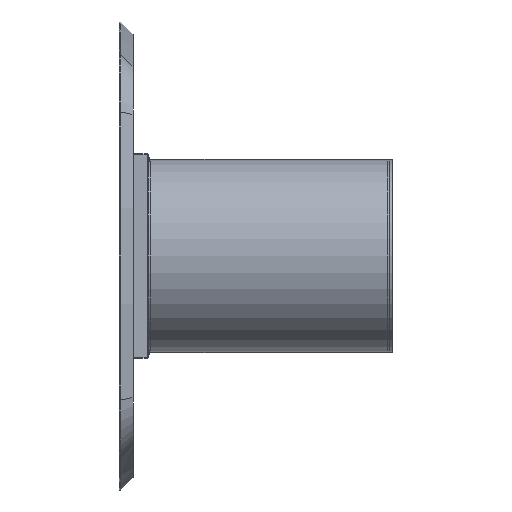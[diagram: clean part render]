
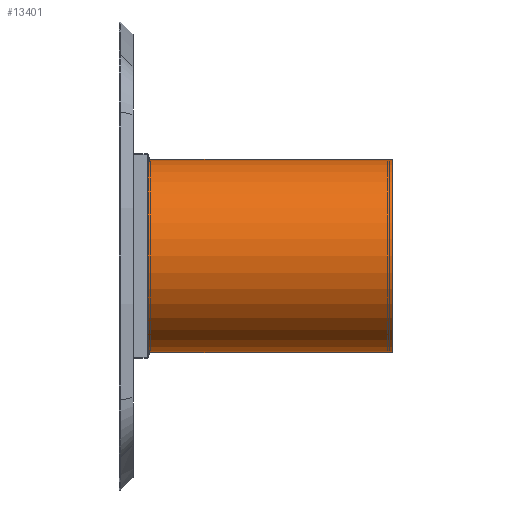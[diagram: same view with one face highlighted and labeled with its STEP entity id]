
A CAD part, left-side view. The second image highlights one B-rep face of the part: STEP entity #13401.
In plain terms, the highlighted cylindrical face has radius 265 mm (diameter 530 mm), a partial arc.
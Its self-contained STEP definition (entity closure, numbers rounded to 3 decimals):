
#482 = ORIENTED_EDGE ( 'NONE', *, *, #15622, .T. ) ;
#661 = FACE_OUTER_BOUND ( 'NONE', #7739, .T. ) ;
#765 = DIRECTION ( 'NONE',  ( 0., 0., 1. ) ) ;
#1100 = ORIENTED_EDGE ( 'NONE', *, *, #4484, .F. ) ;
#1418 = EDGE_CURVE ( 'NONE', #14417, #17779, #7174, .T. ) ;
#1459 = CARTESIAN_POINT ( 'NONE',  ( 0., 0., 265. ) ) ;
#1824 = DIRECTION ( 'NONE',  ( 0., -1., 0. ) ) ;
#1876 = CARTESIAN_POINT ( 'NONE',  ( 0., 0., 0. ) ) ;
#2784 = AXIS2_PLACEMENT_3D ( 'NONE', #7535, #12090, #3670 ) ;
#2919 = CARTESIAN_POINT ( 'NONE',  ( 0., 670., -265. ) ) ;
#3601 = DIRECTION ( 'NONE',  ( 0., 1., 0. ) ) ;
#3670 = DIRECTION ( 'NONE',  ( 0., 0., -1. ) ) ;
#3758 = CIRCLE ( 'NONE', #16893, 265. ) ;
#4484 = EDGE_CURVE ( 'NONE', #4575, #8207, #3758, .T. ) ;
#4575 = VERTEX_POINT ( 'NONE', #8015 ) ;
#5244 = CARTESIAN_POINT ( 'NONE',  ( 0., 670., 265. ) ) ;
#5940 = LINE ( 'NONE', #2919, #10473 ) ;
#7174 = CIRCLE ( 'NONE', #11251, 265. ) ;
#7535 = CARTESIAN_POINT ( 'NONE',  ( 0., 670., 0. ) ) ;
#7739 = EDGE_LOOP ( 'NONE', ( #12879, #1100, #482, #8198 ) ) ;
#7849 = CARTESIAN_POINT ( 'NONE',  ( 0., 670., 0. ) ) ;
#7870 = DIRECTION ( 'NONE',  ( 0., -1., 0. ) ) ;
#8015 = CARTESIAN_POINT ( 'NONE',  ( 0., 670., -265. ) ) ;
#8198 = ORIENTED_EDGE ( 'NONE', *, *, #1418, .T. ) ;
#8207 = VERTEX_POINT ( 'NONE', #5244 ) ;
#9598 = LINE ( 'NONE', #12256, #12144 ) ;
#10473 = VECTOR ( 'NONE', #1824, 1000. ) ;
#10931 = DIRECTION ( 'NONE',  ( 0., 1., 0. ) ) ;
#11251 = AXIS2_PLACEMENT_3D ( 'NONE', #1876, #3601, #765 ) ;
#11406 = EDGE_CURVE ( 'NONE', #8207, #17779, #9598, .T. ) ;
#12090 = DIRECTION ( 'NONE',  ( 0., -1., 0. ) ) ;
#12144 = VECTOR ( 'NONE', #7870, 1000. ) ;
#12256 = CARTESIAN_POINT ( 'NONE',  ( 0., 670., 265. ) ) ;
#12378 = CARTESIAN_POINT ( 'NONE',  ( 0., 0., -265. ) ) ;
#12879 = ORIENTED_EDGE ( 'NONE', *, *, #11406, .F. ) ;
#13401 = ADVANCED_FACE ( 'NONE', ( #661 ), #16182, .T. ) ;
#14417 = VERTEX_POINT ( 'NONE', #12378 ) ;
#15622 = EDGE_CURVE ( 'NONE', #4575, #14417, #5940, .T. ) ;
#16182 = CYLINDRICAL_SURFACE ( 'NONE', #2784, 265. ) ;
#16893 = AXIS2_PLACEMENT_3D ( 'NONE', #7849, #10931, #17974 ) ;
#17779 = VERTEX_POINT ( 'NONE', #1459 ) ;
#17974 = DIRECTION ( 'NONE',  ( 0., 0., 1. ) ) ;
